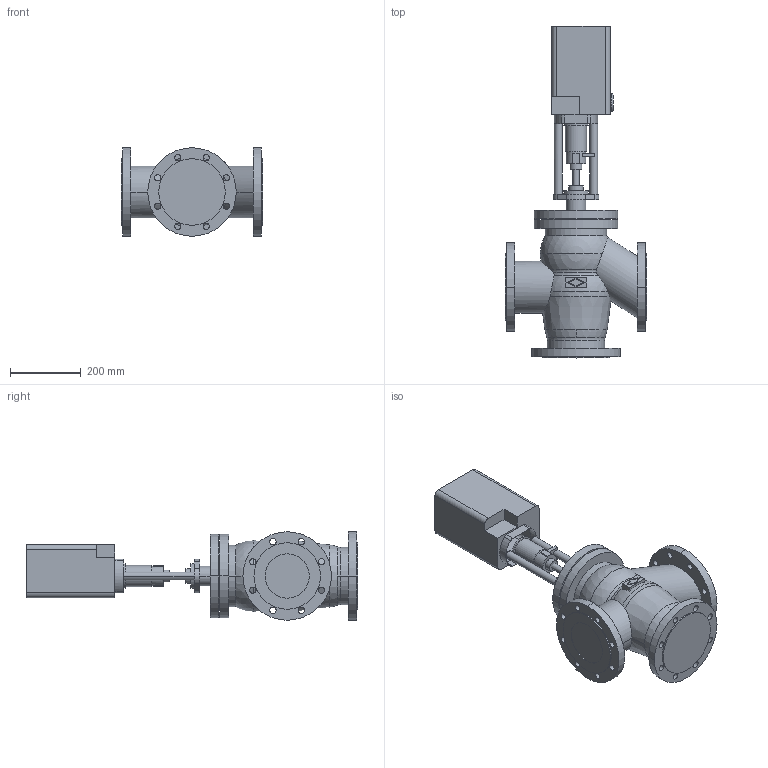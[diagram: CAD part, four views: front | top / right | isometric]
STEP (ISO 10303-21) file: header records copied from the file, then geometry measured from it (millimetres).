
FILE_DESCRIPTION(('OneSpaceDesigner STEP Export'),'2;1');
FILE_NAME('c000000399.stp','2007-01-26T12:28:26',(''),(''),'OneSpace Designer STEP processor for AP214 (Solid Model)','OneSpace Designer 14.00B 27-May-2006 (C) CoCreate Software GmbH','');
FILE_SCHEMA(('AUTOMOTIVE_DESIGN { 1 0 10303 214 1 1 1 1 }'));
Length unit declared in the file: millimetre
Products named in the file (2): 1; 2
Bounding box: 400 x 938 x 250 mm (x, y, z)
Volume: 25274280.5 mm3; surface area: 1016907 mm2
Topology: 2 solids, 2 shells, 214 faces, 552 edges, 360 vertices
Faces by surface type: cylinder 114, plane 80, torus 10, sphere 8, cone 2
Entity records: 6075 total; most frequent: CARTESIAN_POINT 1251, ORIENTED_EDGE 1088, DIRECTION 871, EDGE_CURVE 544, VERTEX_POINT 360, AXIS2_PLACEMENT_3D 317, EDGE_LOOP 288, VECTOR 237
